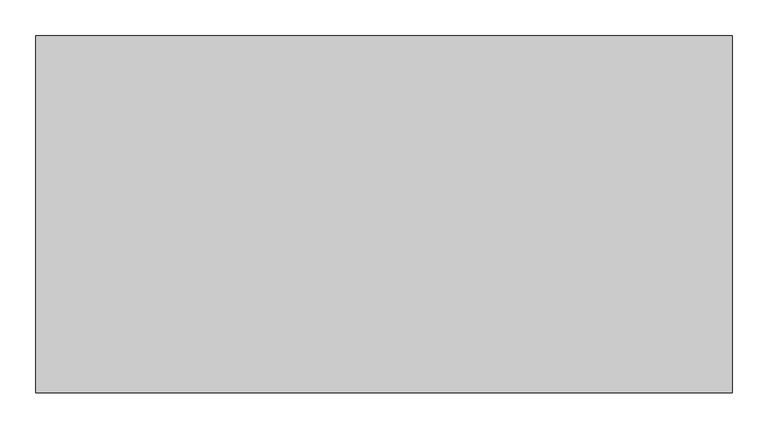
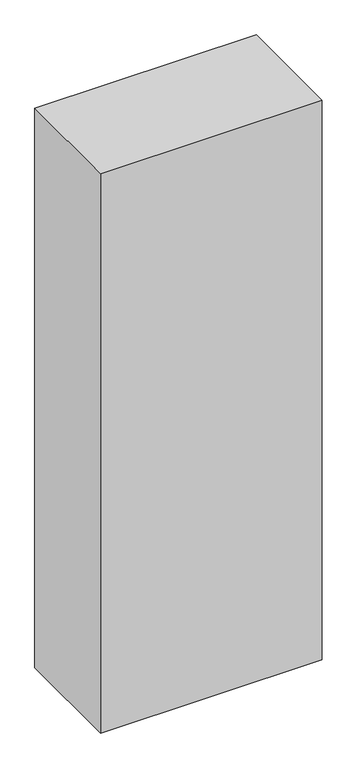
"""IFC4 building model written with IfcOpenShell, lengths in millimetres: furniture geometry, Fu_шкаф 1-с : Шкаф 1-створчатый."""

from ifc_helpers import new_model, si_unit, origin, origin_with_axes, place, context, project, spatial, polyline, outline, extrude, source, transform, mapped, element, save


def furniture_304a86e2(model_context):
    return source(origin(), model_context, "Body", "SweptSolid", [
        extrude(outline(polyline([(975.0, 0.0), (0.0, 0.0), (0.0, 500.0), (975.0, 500.0), (975.0, 0.0)])), origin_with_axes(), (0.0, 0.0, 1.0), 2600.0),
    ])


if __name__ == "__main__":
    model = new_model("IFC4")
    model_context = context("Model", 3, world=origin())
    ifc_project = project(units=[si_unit("LENGTHUNIT", "METRE", prefix="MILLI")], contexts=[model_context])
    site = spatial("IfcSite", under=ifc_project)
    building = spatial("IfcBuilding", under=site)
    placement = place(None, origin())
    furniture_shape = furniture_304a86e2(model_context)
    element("IfcFurniture", 1, ObjectType="Fu_шкаф 1-с : Шкаф 1-створчатый", at=placement, inside=building, context=model_context, shape_type="MappedRepresentation", body=[
        mapped(furniture_shape, transform((0.0, 0.0, 0.0), x_axis=(1.0, 0.0, 0.0), y_axis=(0.0, 1.0, 0.0), z_axis=(0.0, 0.0, 1.0))),
    ])
    save(model, "model.ifc")
